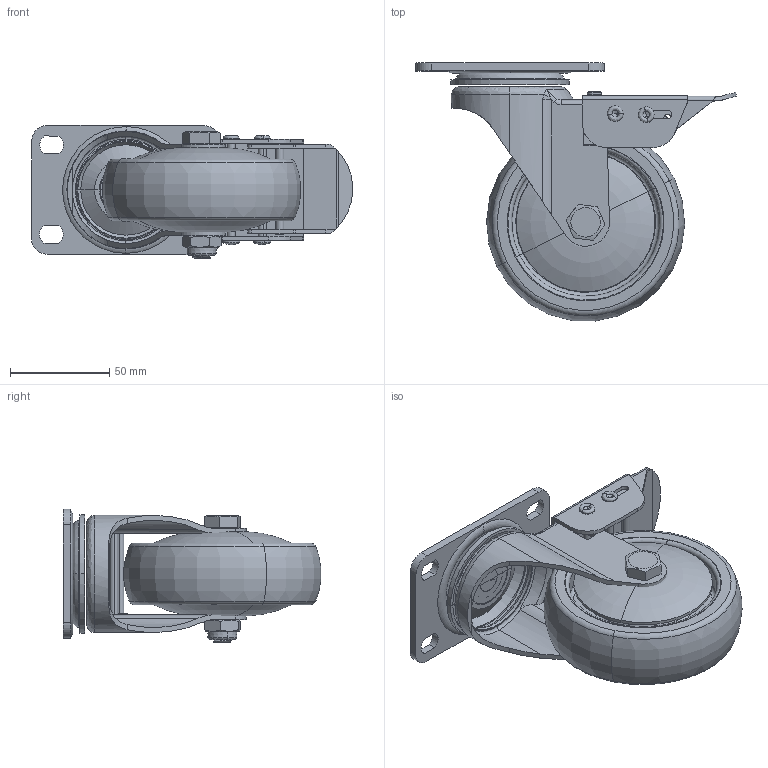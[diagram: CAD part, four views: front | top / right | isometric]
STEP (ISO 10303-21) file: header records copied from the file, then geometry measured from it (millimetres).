
FILE_DESCRIPTION (( 'STEP AP203' ), '1' );
FILE_NAME ('11390400264063.STEP', '2025-02-24T09:50:33', ( '20241006' ), ( '' ), 'SwSTEP 2.0', 'SolidWorks 2021', '' );
FILE_SCHEMA (( 'CONFIG_CONTROL_DESIGN' ));
Length unit declared in the file: millimetre
Products named in the file (13): ____ (3) ^4''''''''39_____________p__________________.STEP.STEP; 11390400264063; ____ (9) ^4''''''''39_____________p__________________.STEP.STEP; ____ (7) ^4''''''''39_____________p__________________.STEP.STEP; ____ (8) ^4''''''''39_____________p__________________.STEP.STEP; ____ (5) ^4''''''''39_____________p__________________.STEP.STEP; ____ (12) ^4''''''''39_____________p__________________.STEP.STEP; ^4''''''''39_____________p__________________.STEP.STEP; ____ (2) ^4''''''''39_____________p__________________.STEP.STEP; ____ (11) ^4''''''''39_____________p__________________.STEP.STEP; ____ (4) ^4''''''''39_____________p__________________.STEP.STEP; ____ (6) ^4''''''''39_____________p__________________.STEP.STEP; 4''''冪萎PPR謫等粣創 -
Assembly tree (14 placements, depth 2):
  11390400264063
    ____ (7) ^4''''''''39_____________p__________________.STEP.STEP
    ____ (8) ^4''''''''39_____________p__________________.STEP.STEP
    ____ (12) ^4''''''''39_____________p__________________.STEP.STEP
    ____ (6) ^4''''''''39_____________p__________________.STEP.STEP
    ____ (9) ^4''''''''39_____________p__________________.STEP.STEP  x2
    ____ (5) ^4''''''''39_____________p__________________.STEP.STEP  x2
    ____ (11) ^4''''''''39_____________p__________________.STEP.STEP
    ____ (4) ^4''''''''39_____________p__________________.STEP.STEP
    ____ (3) ^4''''''''39_____________p__________________.STEP.STEP
    ____ (2) ^4''''''''39_____________p__________________.STEP.STEP
    ^4''''''''39_____________p__________________.STEP.STEP
    4''''冪萎PPR謫等粣創 -
Bounding box: 161.74 x 129.89 x 67.35 mm (x, y, z)
Volume: 264498.1 mm3; surface area: 104083 mm2
Topology: 14 solids, 14 shells, 410 faces, 983 edges, 611 vertices
Faces by surface type: cylinder 136, plane 120, bspline 66, cone 54, torus 34
Entity records: 18347 total; most frequent: CARTESIAN_POINT 8057, DIRECTION 1879, ORIENTED_EDGE 1844, EDGE_CURVE 922, AXIS2_PLACEMENT_3D 754, VERTEX_POINT 580, EDGE_LOOP 446, CIRCLE 409
